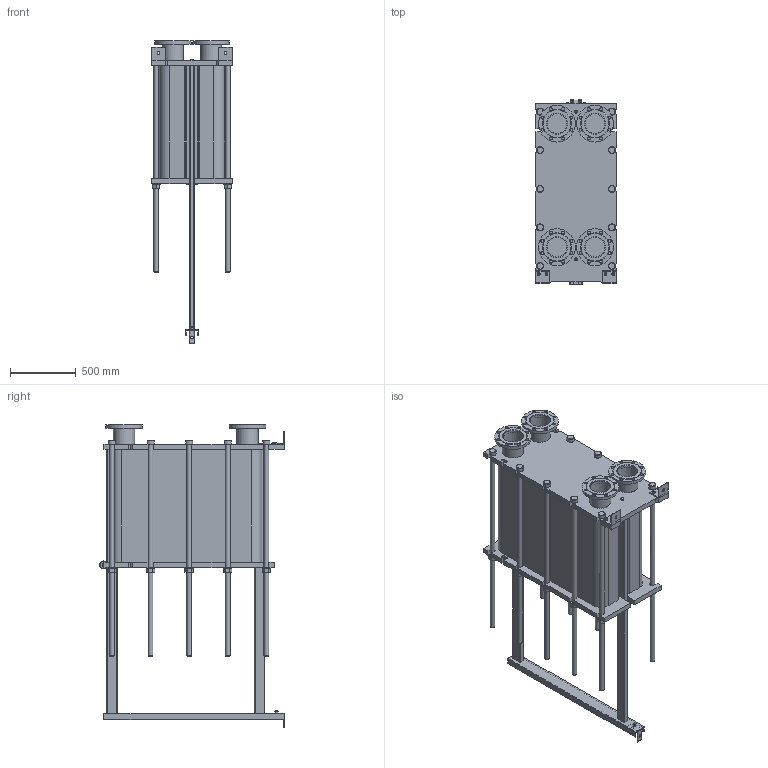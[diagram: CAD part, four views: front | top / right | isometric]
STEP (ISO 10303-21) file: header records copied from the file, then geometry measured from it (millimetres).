
FILE_DESCRIPTION(/* description */ (''),/* implementation_level */ '2;1');
FILE_NAME(/* name */ 'C:\Users\zhuro\Desktop\ENCO\TO\ЭН-041\ЭН-0,5-041-249-1.stp',/* time_stamp */ '2022-06-06T11:10:02+03:00',/* author */ ('zhuro'),/* organization */ (''),/* preprocessor_version */ 'ST-DEVELOPER v18.1',/* originating_system */ 'Autodesk Inventor 2022',/* authorisation */ '');
FILE_SCHEMA (('AUTOMOTIVE_DESIGN { 1 0 10303 214 3 1 1 }'));
Length unit declared in the file: millimetre
Products named in the file (1): ЭН-0,5-041-249-1
Bounding box: 610 x 1406.5 x 2307.5 mm (x, y, z)
Volume: 574105507.5 mm3; surface area: 12309838.9 mm2
Topology: 52 solids, 52 shells, 711 faces, 1696 edges, 1094 vertices
Faces by surface type: plane 487, cylinder 177, cone 41, torus 6
Full cylindrical faces by diameter (mm): 8 x4, 10 x2, 16 x8, 18 x3, 22 x32, 36 x24, 50 x1, 54 x10, 60 x12, 151 x4, 161 x8, 280 x4
Entity records: 22667 total; most frequent: CARTESIAN_POINT 5230, DIRECTION 3644, ORIENTED_EDGE 3392, EDGE_CURVE 1696, AXIS2_PLACEMENT_3D 1272, LINE 1100, VECTOR 1100, VERTEX_POINT 1094
